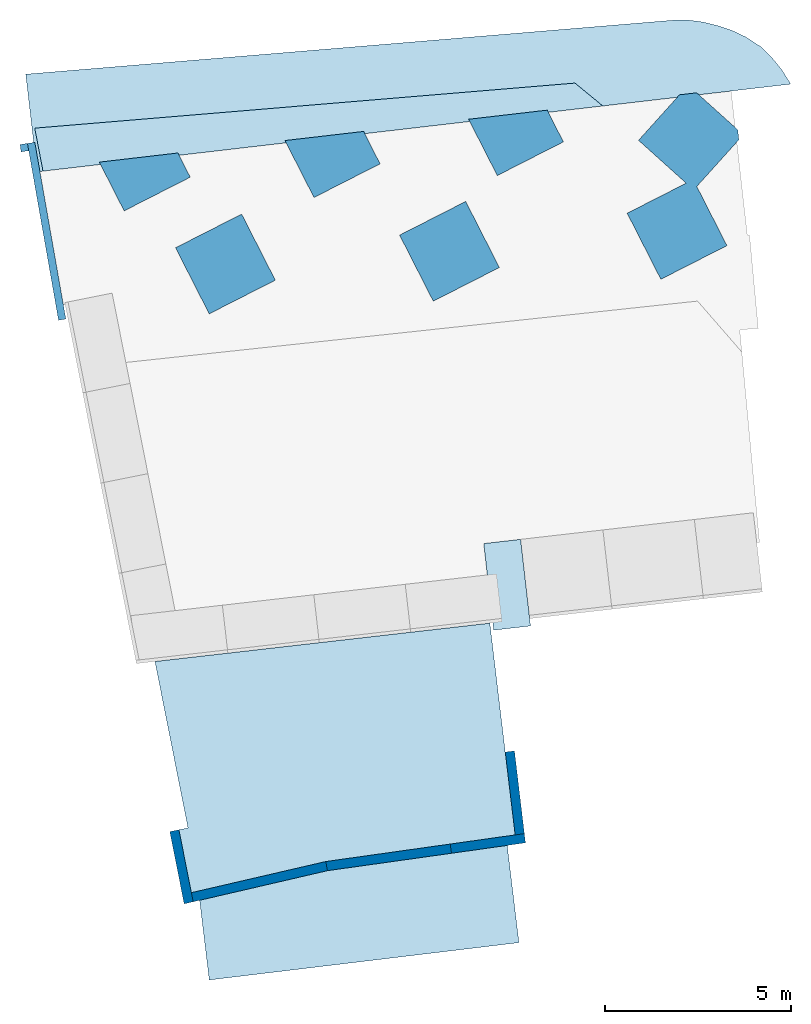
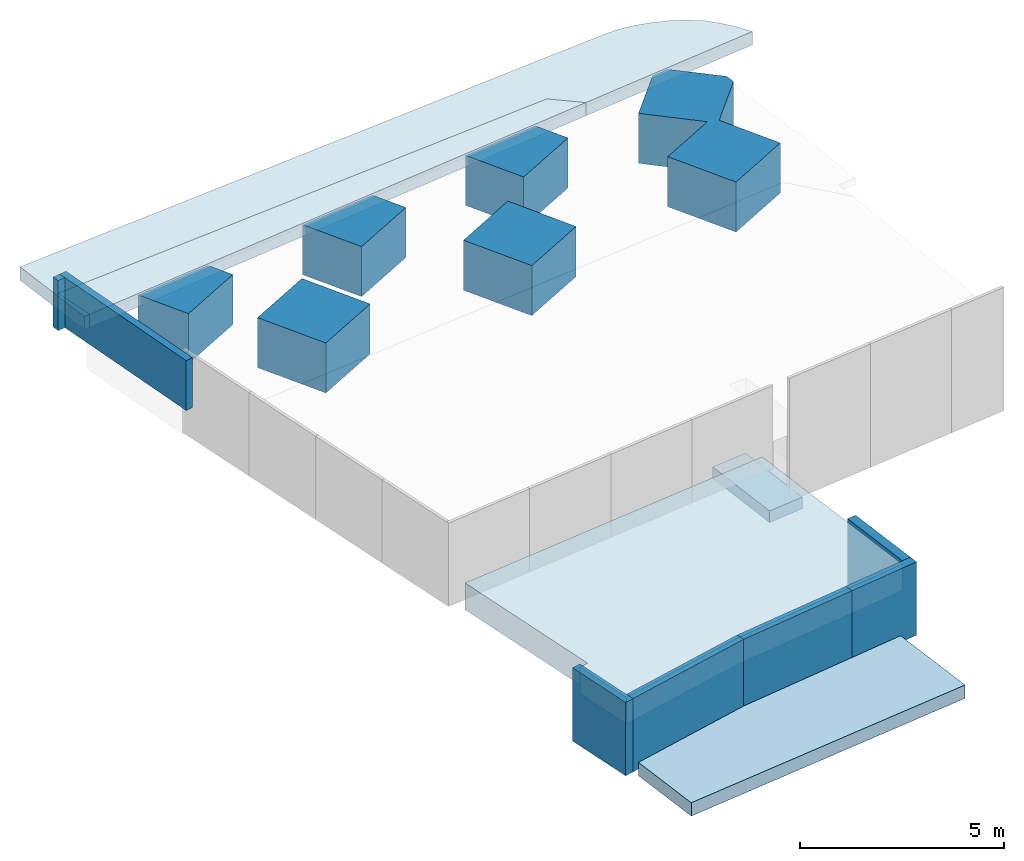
# One storey, part 1 of 3: 11 slabs, 7 walls.
"""IFC2X3 building model written with IfcOpenShell, lengths in centimetres."""

from ifc_helpers import new_model, entity, si_unit, converted_unit, derived_unit, direction, frame, frame_2d, origin, place, context, subcontext, project, spatial, polyline, rectangle, outline, extrude, material, layer, layer_set, layer_usage, type_object, element, save


model = new_model("IFC2X3")

# Units and contexts
model_context = context("Model", 3, precision=0.001, world=origin(), true_north=direction((0.0, 1.0)))
body_context = subcontext(model_context, "Body", "Model", "MODEL_VIEW")
ifc_project = project(units=[si_unit("LENGTHUNIT", "METRE", prefix="CENTI"), si_unit("AREAUNIT", "SQUARE_METRE"), si_unit("VOLUMEUNIT", "CUBIC_METRE"), converted_unit("PLANEANGLEUNIT", "DEGREE", entity("IfcPlaneAngleMeasure", 0.017453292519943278), si_unit("PLANEANGLEUNIT", "RADIAN"), dimensions=[0, 0, 0, 0, 0, 0, 0]), derived_unit("THERMALTRANSMITTANCEUNIT", [(si_unit("MASSUNIT", "GRAM", prefix="KILO"), 1), (si_unit("THERMODYNAMICTEMPERATUREUNIT", "KELVIN"), -1), (si_unit("TIMEUNIT", "SECOND"), -3)])], contexts=[model_context])

# Site, building, storey
site_placement = place(None, frame((0.0, 0.0, 30720.0)))
site = spatial("IfcSite", under=ifc_project, at=site_placement, Name="Default", CompositionType="ELEMENT")
building_placement = place(site_placement, origin())
building = spatial("IfcBuilding", under=site, at=building_placement, CompositionType="ELEMENT")
storey_placement = place(building_placement, origin())
storey = spatial("IfcBuildingStorey", under=building, at=storey_placement, Name="RdC", CompositionType="ELEMENT", Elevation=0.0)

# Slabs
ifc_material_1 = material(Name="05-Terre ajoutée")
ifc_layer_1 = layer(ifc_material_1, 50.0)
ifc_material_2 = material(Name="05-Terre")
ifc_layer_2 = layer(ifc_material_2, 30.0)
ifc_layer_set_1 = layer_set([ifc_layer_1, ifc_layer_2], Name="Sol:Terre végétale 2")
ifc_layer_usage_1 = layer_usage(ifc_layer_set_1, "AXIS3", "POSITIVE", 0.0)
slab_type_1 = type_object("IfcSlabType", Name="Sol:Terre végétale 2", PredefinedType="FLOOR", material=ifc_layer_set_1)
slab_1_placement = place(storey_placement, origin())
element("IfcSlab", 1, at=slab_1_placement, inside=storey, type_object=slab_type_1, material=ifc_layer_usage_1, Name="Sol:Terre végétale 2", PredefinedType="FLOOR", context=body_context, shape_type="SweptSolid", body=[
    extrude(outline(polyline([(-327.5687622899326, -386.7172003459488), (580.9825850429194, -386.71720034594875), (583.9326307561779, 188.0780067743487), (68.52521270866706, 201.32306279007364), (-300.8183334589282, 243.52224475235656), (-314.9846018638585, 71.2801618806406), (-290.068730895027, 69.2309244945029), (-327.5687622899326, -386.7172003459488)])), frame((27467.968956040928, -13916.232801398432, -110.0), z_axis=(0.0, 0.0, -1.0), x_axis=(0.9935217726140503, 0.11364192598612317, 0.0)), (0.0, 0.0, 1.0), 80.0),
])
ifc_material_3 = material(Name="04-Existant")
ifc_layer_3 = layer(ifc_material_3, 40.0)
ifc_layer_set_2 = layer_set([ifc_layer_3], Name="Sol:Sol existant")
ifc_layer_usage_2 = layer_usage(ifc_layer_set_2, "AXIS3", "POSITIVE", 0.0)
slab_type_2 = type_object("IfcSlabType", Name="Sol:Sol existant", PredefinedType="FLOOR", material=ifc_layer_set_2)
slab_2_placement = place(storey_placement, origin())
element("IfcSlab", 2, at=slab_2_placement, inside=storey, type_object=slab_type_2, material=ifc_layer_usage_2, Name="Sol:Sol existant", PredefinedType="FLOOR", context=body_context, shape_type="SweptSolid", body=[
    extrude(outline(polyline([(-117.00368694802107, -434.1815440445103), (146.9356900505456, -434.18154404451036), (146.9356900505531, 406.6535516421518), (-69.44148189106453, 406.65355164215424), (-107.42621126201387, 55.05598480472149), (-117.00368694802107, -434.1815440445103)])), frame((27631.02182626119, -14233.128482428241, -300.0), z_axis=(0.0, 0.0, -1.0), x_axis=(0.1197439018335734, -0.9928048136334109, 0.0)), (0.0, 0.0, 1.0), 39.99999999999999),
])
ifc_layer_usage_3 = layer_usage(ifc_layer_set_2, "AXIS3", "POSITIVE", 0.0)
slab_3_placement = place(storey_placement, origin())
element("IfcSlab", 3, at=slab_3_placement, inside=storey, type_object=slab_type_2, material=ifc_layer_usage_3, Name="Sol:Sol existant", PredefinedType="FLOOR", context=body_context, shape_type="SweptSolid", body=[
    extrude(outline(polyline([(366.6120644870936, -466.8509404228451), (408.14672738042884, -466.8509404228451), (448.9183458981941, -462.8840559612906), (492.4103483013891, -453.2045288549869), (179.13205593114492, -50.818379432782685), (82.54198859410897, -40.6165941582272), (-852.2485124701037, 1082.345940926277), (-754.01815950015, 1147.7540437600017), (-763.8927620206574, 1160.4373460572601), (-972.9362014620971, 997.6862875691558), (147.8022452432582, -348.65526700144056), (173.97413232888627, -375.9532553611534), (206.5436240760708, -401.564540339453), (241.7829853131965, -423.0837643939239), (278.45548364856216, -441.86606582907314), (316.7756342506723, -455.8752861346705), (366.6120644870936, -466.8509404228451)])), frame((28143.829005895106, -11980.063599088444, 0.0), z_axis=(0.0, 0.0, -1.0), x_axis=(0.7014213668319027, -0.7127468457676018, 0.0)), (0.0, 0.0, 1.0), 39.99999999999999),
])
ifc_material_4 = material(Name="00-GB")
slab_type_3 = type_object("IfcSlabType", Name="LBTS-25-SF+GB-ESS2-OLL:SF.001", PredefinedType="BASESLAB", material=ifc_material_4)
slab_4_placement = place(storey_placement, frame((0.0, 0.0, -265.0)))
element("IfcSlab", 4, at=slab_4_placement, inside=storey, type_object=slab_type_3, Name="LBTS-25-SF+GB-ESS2-OLL:SF.001", PredefinedType="BASESLAB", context=body_context, shape_type="SweptSolid", body=[
    extrude(rectangle(XDim=99.99999999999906, YDim=234.93011499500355, at=frame_2d((1.8189894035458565e-12, 6.608047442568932e-13), x_axis=(1.0, 0.0))), frame((28047.775595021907, -13362.501060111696, -35.0), z_axis=(0.0, 0.0, 1.0), x_axis=(0.9935215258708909, 0.11364408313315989, 0.0)), (0.0, 0.0, 1.0), 4.9999999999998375),
    extrude(rectangle(XDim=99.99999999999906, YDim=234.93011499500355, at=frame_2d((9.592326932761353e-14, 8.597567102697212e-13), x_axis=(1.0, 0.0))), frame((28047.775595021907, -13362.501060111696, -30.0), z_axis=(0.0, 0.0, 1.0), x_axis=(0.9935215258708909, 0.11364408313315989, 0.0)), (0.0, 0.0, 1.0), 29.999999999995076),
])
ifc_material_5 = material(Name="05-Terre arbres")
ifc_layer_4 = layer(ifc_material_5, 150.0)
ifc_layer_set_3 = layer_set([ifc_layer_4], Name="Sol:Terre végétale arbres")
ifc_layer_usage_4 = layer_usage(ifc_layer_set_3, "AXIS3", "POSITIVE", 0.0)
slab_type_4 = type_object("IfcSlabType", Name="Sol:Terre végétale arbres", PredefinedType="FLOOR", material=ifc_layer_set_3)
slab_5_placement = place(storey_placement, frame((26948.597369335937, -12632.414753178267, -160.0)))
element("IfcSlab", 5, at=slab_5_placement, inside=storey, type_object=slab_type_4, material=ifc_layer_usage_4, Name="Sol:Terre végétale arbres", PredefinedType="FLOOR", context=body_context, shape_type="SweptSolid", body=[
    extrude(rectangle(XDim=199.9999999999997, YDim=200.00000000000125, at=frame_2d((-23.289625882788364, -165.897215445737), x_axis=(0.8910065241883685, -0.45399049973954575))), frame((920.537715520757, 334.5228878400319, 150.0), z_axis=(0.0, 0.0, -1.0), x_axis=(-1.0, 0.0, 0.0)), (0.0, 0.0, 1.0), 150.0),
])
slab_6_placement = place(storey_placement, frame((26948.597369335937, -12632.414753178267, -160.0)))
element("IfcSlab", 6, at=slab_6_placement, inside=storey, type_object=slab_type_4, material=ifc_layer_usage_4, Name="Sol:Terre végétale arbres:2", PredefinedType="FLOOR", context=body_context, shape_type="SweptSolid", body=[
    extrude(rectangle(XDim=199.99999999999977, YDim=199.99999999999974, at=frame_2d((580.5897711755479, -200.02318544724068), x_axis=(0.8910065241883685, -0.4539904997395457))), frame((920.537715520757, 334.5228878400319, 150.0), z_axis=(0.0, 0.0, -1.0), x_axis=(-1.0, 0.0, 0.0)), (0.0, 0.0, 1.0), 150.0),
])
slab_7_placement = place(storey_placement, frame((26948.597369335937, -12632.414753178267, -160.0)))
element("IfcSlab", 7, at=slab_7_placement, inside=storey, type_object=slab_type_4, material=ifc_layer_usage_4, Name="Sol:Terre végétale arbres:3", PredefinedType="FLOOR", context=body_context, shape_type="SweptSolid", body=[
    extrude(outline(polyline([(675.362146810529, 33.82577369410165), (853.5634516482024, -56.97232625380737), (920.537715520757, 74.472067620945), (708.6180546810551, 99.09416785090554), (675.362146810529, 33.82577369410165)])), frame((920.537715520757, 334.5228878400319, 150.0), z_axis=(0.0, 0.0, -1.0), x_axis=(-1.0, 0.0, 0.0)), (0.0, 0.0, 1.0), 150.0),
])
slab_8_placement = place(storey_placement, frame((26948.597369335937, -12632.414753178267, -160.0)))
element("IfcSlab", 8, at=slab_8_placement, inside=storey, type_object=slab_type_4, material=ifc_layer_usage_4, Name="Sol:Terre végétale arbres:4", PredefinedType="FLOOR", context=body_context, shape_type="SweptSolid", body=[
    extrude(outline(polyline([(163.71695289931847, 69.88232845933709), (341.9182577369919, -20.915771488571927), (420.145371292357, 132.6135833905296), (208.20005489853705, 157.18533176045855), (163.71695289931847, 69.88232845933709)])), frame((920.537715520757, 334.5228878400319, 150.0), z_axis=(0.0, 0.0, -1.0), x_axis=(-1.0, 0.0, 0.0)), (0.0, 0.0, 1.0), 150.0),
])
slab_9_placement = place(storey_placement, frame((26948.597369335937, -12632.414753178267, -160.0)))
element("IfcSlab", 9, at=slab_9_placement, inside=storey, type_object=slab_type_4, material=ifc_layer_usage_4, Name="Sol:Terre végétale arbres:5", PredefinedType="FLOOR", context=body_context, shape_type="SweptSolid", body=[
    extrude(outline(polyline([(-330.3057181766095, 128.98366130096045), (-152.10441333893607, 38.18556135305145), (-74.75633872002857, 189.9897051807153), (-286.7016551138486, 214.56145355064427), (-330.3057181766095, 128.98366130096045)])), frame((920.537715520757, 334.5228878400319, 150.0), z_axis=(0.0, 0.0, -1.0), x_axis=(-1.0, 0.0, 0.0)), (0.0, 0.0, 1.0), 150.0),
])
slab_10_placement = place(storey_placement, frame((26948.597369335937, -12632.414753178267, -160.0)))
element("IfcSlab", 10, at=slab_10_placement, inside=storey, type_object=slab_type_4, material=ifc_layer_usage_4, Name="Sol:Terre végétale arbres:6", PredefinedType="FLOOR", context=body_context, shape_type="SweptSolid", body=[
    extrude(outline(polyline([(-771.1156408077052, -150.6064174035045), (-592.9143359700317, -241.40451735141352), (-502.1162360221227, -63.20321251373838), (-661.0701834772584, 17.787869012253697), (-532.7571894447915, 133.32140777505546), (-643.110817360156, 255.88152799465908), (-689.5555564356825, 261.2660699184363), (-800.2589636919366, 161.58827430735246), (-803.2660940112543, 134.85667258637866), (-689.8470857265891, 8.89210256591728), (-771.1156408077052, -150.6064174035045)])), frame((920.537715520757, 334.5228878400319, 150.0), z_axis=(0.0, 0.0, -1.0), x_axis=(-1.0, 0.0, 0.0)), (0.0, 0.0, 1.0), 150.0),
])
ifc_material_6 = material(Name="04-hors lot")
ifc_layer_5 = layer(ifc_material_6, 40.0)
ifc_layer_set_4 = layer_set([ifc_layer_5], Name="Sol:Sol modifié hors lot")
ifc_layer_usage_5 = layer_usage(ifc_layer_set_4, "AXIS3", "POSITIVE", 0.0)
slab_type_5 = type_object("IfcSlabType", Name="Sol:Sol modifié hors lot", PredefinedType="FLOOR", material=ifc_layer_set_4)
slab_11_placement = place(storey_placement, origin())
element("IfcSlab", 11, at=slab_11_placement, inside=storey, type_object=slab_type_5, material=ifc_layer_usage_5, Name="Sol:Sol modifié hors lot", PredefinedType="FLOOR", context=body_context, shape_type="SweptSolid", body=[
    extrude(outline(polyline([(-751.1140871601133, -46.26279222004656), (710.0081308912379, -46.262792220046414), (779.6448107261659, 21.445777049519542), (-738.538854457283, 71.07980739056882), (-751.1140871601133, -46.26279222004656)])), frame((27526.965821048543, -12115.501394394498, 0.0), z_axis=(0.0, 0.0, -1.0), x_axis=(0.9965422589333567, 0.08308746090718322, 0.0)), (0.0, 0.0, 1.0), 40.0),
])

# Walls
ifc_layer_6 = layer(ifc_material_3, 25.0)
ifc_layer_set_5 = layer_set([ifc_layer_6], Name="Mur de base:Existant 25")
ifc_layer_usage_6 = layer_usage(ifc_layer_set_5, "AXIS2", "NEGATIVE", 12.5)
wall_type_1 = type_object("IfcWallType", Name="Mur de base:Existant 25", PredefinedType="STANDARD", material=ifc_layer_set_5)
wall_1_placement = place(storey_placement, frame((27896.038175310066, -14073.716588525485, -320.0), z_axis=(0.0, 0.0, 1.0), x_axis=(-0.9902709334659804, -0.1391527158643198, 0.0)))
element("IfcWallStandardCase", 12, at=wall_1_placement, inside=storey, type_object=wall_type_1, material=ifc_layer_usage_6, Name="Mur de base:Existant 25", context=body_context, shape_type="SweptSolid", body=[
    extrude(outline(polyline([(338.6646700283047, -12.500000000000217), (337.5634153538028, 12.500000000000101), (0.0, 12.499999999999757), (0.0, -12.499999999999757), (338.6646700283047, -12.500000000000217)])), origin(), (0.0, 0.0, 1.0), 220.0),
])
ifc_layer_usage_7 = layer_usage(ifc_layer_set_5, "AXIS2", "NEGATIVE", 12.5)
wall_2_placement = place(storey_placement, frame((27561.75008758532, -14120.641805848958, -320.0), z_axis=(0.0, 0.0, 1.0), x_axis=(-0.9741996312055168, -0.22568801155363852, 0.0)))
element("IfcWallStandardCase", 13, at=wall_2_placement, inside=storey, type_object=wall_type_1, material=ifc_layer_usage_7, Name="Mur de base:Existant 25", context=body_context, shape_type="SweptSolid", body=[
    extrude(outline(polyline([(371.74645398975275, -12.499999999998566), (372.5392115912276, 12.500000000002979), (1.101254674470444, 12.500000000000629), (0.0, -12.499999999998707), (371.74645398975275, -12.499999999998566)])), origin(), (0.0, 0.0, 1.0), 220.0),
])
ifc_layer_usage_8 = layer_usage(ifc_layer_set_5, "AXIS2", "NEGATIVE", 12.5)
wall_3_placement = place(storey_placement, frame((28095.99216972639, -14045.619084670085, -320.0), z_axis=(0.0, 0.0, 1.0), x_axis=(-0.9902709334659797, -0.13915271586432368, 0.0)))
element("IfcWallStandardCase", 14, at=wall_3_placement, inside=storey, type_object=wall_type_1, material=ifc_layer_usage_8, Name="Mur de base:Existant 25", context=body_context, shape_type="SweptSolid", body=[
    extrude(outline(polyline([(201.91847267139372, -12.499999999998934), (201.91847267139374, 12.500000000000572), (0.5147100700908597, 12.500000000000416), (0.0, -12.499999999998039), (25.00529796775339, -12.499999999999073), (201.91847267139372, -12.499999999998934)])), origin(), (0.0, 0.0, 1.0), 220.0),
])
ifc_layer_usage_9 = layer_usage(ifc_layer_set_5, "AXIS2", "NEGATIVE", 12.5)
wall_4_placement = place(storey_placement, frame((28055.178341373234, -13811.764314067, -320.0), z_axis=(0.0, 0.0, 1.0), x_axis=(0.11873945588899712, -0.9929254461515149, 0.0)))
element("IfcWallStandardCase", 15, at=wall_4_placement, inside=storey, type_object=wall_type_1, material=ifc_layer_usage_9, Name="Mur de base:Existant 25", context=body_context, shape_type="SweptSolid", body=[
    extrude(outline(polyline([(225.0639226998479, -12.499999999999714), (224.5492126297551, 12.499999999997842), (0.0, 12.49999999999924), (0.0, -12.499999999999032), (225.0639226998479, -12.499999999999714)])), origin(), (0.0, 0.0, 1.0), 220.0),
])
ifc_layer_usage_10 = layer_usage(ifc_layer_set_5, "AXIS2", "NEGATIVE", 12.5)
wall_5_placement = place(storey_placement, frame((27150.864520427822, -14025.280375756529, -320.0), z_axis=(0.0, 0.0, 1.0), x_axis=(0.19469798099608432, -0.980863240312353, 0.0)))
element("IfcWallStandardCase", 16, at=wall_5_placement, inside=storey, type_object=wall_type_1, material=ifc_layer_usage_10, Name="Mur de base:Existant 25", context=body_context, shape_type="SweptSolid", body=[
    extrude(outline(polyline([(198.6289860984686, -12.50000000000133), (197.8362284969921, 12.500000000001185), (172.82366236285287, 12.500000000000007), (0.0, 12.500000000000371), (0.0, -12.500000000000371), (198.6289860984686, -12.50000000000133)])), origin(), (0.0, 0.0, 1.0), 220.0),
])
ifc_layer_7 = layer(ifc_material_3, 20.0)
ifc_layer_set_6 = layer_set([ifc_layer_7], Name="Mur de base:Existant 20")
ifc_layer_usage_11 = layer_usage(ifc_layer_set_6, "AXIS2", "NEGATIVE", 10.0)
wall_type_2 = type_object("IfcWallType", Name="Mur de base:Existant 20", PredefinedType="STANDARD", material=ifc_layer_set_6)
wall_6_placement = place(storey_placement, frame((26848.605990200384, -12647.973529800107, -60.0), z_axis=(0.0, 0.0, 1.0), x_axis=(-0.17309121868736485, 0.9849057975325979, 0.0)))
element("IfcWallStandardCase", 17, at=wall_6_placement, inside=storey, type_object=wall_type_2, material=ifc_layer_usage_11, Name="Mur de base:Existant 20", context=body_context, shape_type="SweptSolid", body=[
    extrude(outline(polyline([(483.50385590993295, -10.0), (484.03194860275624, 10.0), (464.02497777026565, 10.0), (0.0, 10.0), (0.0, -10.0), (483.50385590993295, -10.0)])), origin(), (0.0, 0.0, 1.0), 150.0),
])
ifc_layer_usage_12 = layer_usage(ifc_layer_set_6, "AXIS2", "NEGATIVE", 10.0)
wall_7_placement = place(storey_placement, frame((26756.967944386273, -12182.792236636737, -60.0), z_axis=(0.0, 0.0, 1.0), x_axis=(-0.9891314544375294, -0.1470338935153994, 0.0)))
element("IfcWallStandardCase", 18, at=wall_7_placement, inside=storey, type_object=wall_type_2, material=ifc_layer_usage_12, Name="Mur de base:Existant 20", context=body_context, shape_type="SweptSolid", body=[
    extrude(outline(polyline([(20.836996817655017, -10.0), (20.836996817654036, 10.0), (0.0, 10.0), (0.5280926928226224, -10.0), (20.836996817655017, -10.0)])), origin(), (0.0, 0.0, 1.0), 150.0),
])

save(model, "model.ifc")
